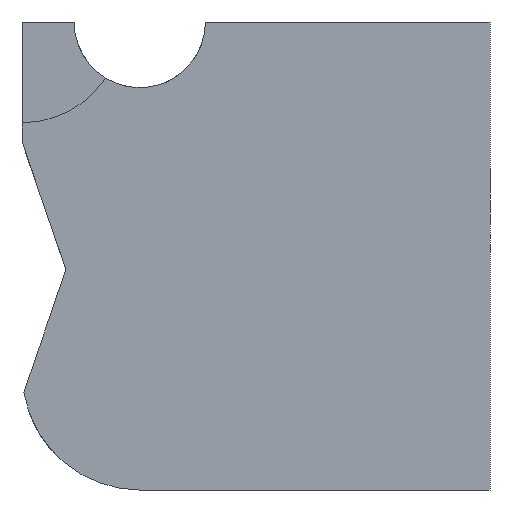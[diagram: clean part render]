
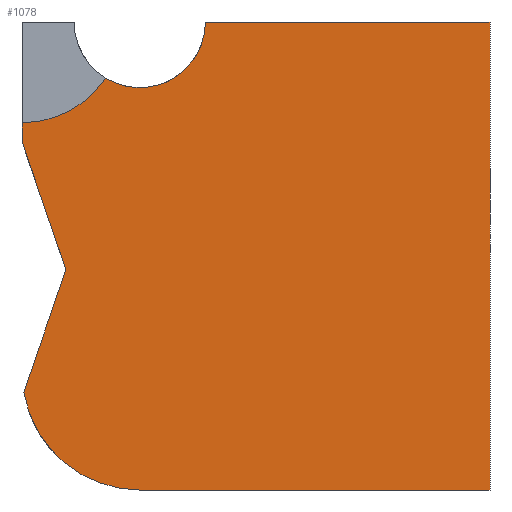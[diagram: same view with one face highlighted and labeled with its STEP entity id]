
A CAD part, front view. The second image highlights one B-rep face of the part: STEP entity #1078.
In plain terms, the highlighted planar face has unit normal (0, -1, 0).
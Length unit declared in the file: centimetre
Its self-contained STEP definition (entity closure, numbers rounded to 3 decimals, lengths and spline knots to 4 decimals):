
#19 = VECTOR ( 'NONE', #1021, 100. ) ;
#25 = LINE ( 'NONE', #358, #19 ) ;
#41 = ORIENTED_EDGE ( 'NONE', *, *, #123, .T. ) ;
#48 = DIRECTION ( 'NONE',  ( 0., -1., 0. ) ) ;
#76 = DIRECTION ( 'NONE',  ( 1., 0., 0. ) ) ;
#79 = EDGE_CURVE ( 'NONE', #438, #530, #575, .T. ) ;
#86 = EDGE_CURVE ( 'NONE', #248, #256, #756, .T. ) ;
#98 = CARTESIAN_POINT ( 'NONE',  ( 1000., 0., 0. ) ) ;
#111 = DIRECTION ( 'NONE',  ( -0.325, 0., 0.946 ) ) ;
#123 = EDGE_CURVE ( 'NONE', #401, #344, #672, .T. ) ;
#143 = ORIENTED_EDGE ( 'NONE', *, *, #86, .F. ) ;
#167 = DIRECTION ( 'NONE',  ( 0., 0., -1. ) ) ;
#175 = VECTOR ( 'NONE', #111, 100. ) ;
#180 = DIRECTION ( 'NONE',  ( 0., 0., 1. ) ) ;
#200 = VERTEX_POINT ( 'NONE', #782 ) ;
#223 = EDGE_CURVE ( 'NONE', #401, #200, #25, .T. ) ;
#236 = VECTOR ( 'NONE', #167, 100. ) ;
#243 = LINE ( 'NONE', #916, #279 ) ;
#248 = VERTEX_POINT ( 'NONE', #596 ) ;
#256 = VERTEX_POINT ( 'NONE', #98 ) ;
#276 = CARTESIAN_POINT ( 'NONE',  ( 0., 0., 1000. ) ) ;
#279 = VECTOR ( 'NONE', #76, 100. ) ;
#292 = EDGE_CURVE ( 'NONE', #200, #513, #429, .T. ) ;
#301 = EDGE_CURVE ( 'NONE', #334, #530, #326, .T. ) ;
#309 = VECTOR ( 'NONE', #537, 100. ) ;
#326 = CIRCLE ( 'NONE', #588, 140.2951 ) ;
#333 = DIRECTION ( 'NONE',  ( 0., 0., 1. ) ) ;
#334 = VERTEX_POINT ( 'NONE', #923 ) ;
#341 = ORIENTED_EDGE ( 'NONE', *, *, #292, .F. ) ;
#342 = CARTESIAN_POINT ( 'NONE',  ( 0., 0., 1000. ) ) ;
#344 = VERTEX_POINT ( 'NONE', #694 ) ;
#358 = CARTESIAN_POINT ( 'NONE',  ( 0., 0., 197.5916 ) ) ;
#362 = ORIENTED_EDGE ( 'NONE', *, *, #301, .T. ) ;
#401 = VERTEX_POINT ( 'NONE', #472 ) ;
#405 = CARTESIAN_POINT ( 'NONE',  ( 0., 0., 1000. ) ) ;
#429 = LINE ( 'NONE', #1028, #175 ) ;
#438 = VERTEX_POINT ( 'NONE', #946 ) ;
#440 = ORIENTED_EDGE ( 'NONE', *, *, #1061, .T. ) ;
#444 = DIRECTION ( 'NONE',  ( 0., 1., 0. ) ) ;
#472 = CARTESIAN_POINT ( 'NONE',  ( 3.783, 0., 208.6036 ) ) ;
#512 = DIRECTION ( 'NONE',  ( 0., 0., -1. ) ) ;
#513 = VERTEX_POINT ( 'NONE', #742 ) ;
#530 = VERTEX_POINT ( 'NONE', #889 ) ;
#537 = DIRECTION ( 'NONE',  ( 1., 0., 0. ) ) ;
#575 = CIRCLE ( 'NONE', #897, 215.2408 ) ;
#586 = DIRECTION ( 'NONE',  ( 0., -1., 0. ) ) ;
#588 = AXIS2_PLACEMENT_3D ( 'NONE', #590, #444, #180 ) ;
#590 = CARTESIAN_POINT ( 'NONE',  ( 251.5987, 0., 1000. ) ) ;
#596 = CARTESIAN_POINT ( 'NONE',  ( 1000., 0., 1000. ) ) ;
#629 = ORIENTED_EDGE ( 'NONE', *, *, #223, .F. ) ;
#639 = EDGE_CURVE ( 'NONE', #438, #513, #727, .T. ) ;
#660 = FACE_OUTER_BOUND ( 'NONE', #902, .T. ) ;
#672 = CIRCLE ( 'NONE', #834, 252.1141 ) ;
#677 = ORIENTED_EDGE ( 'NONE', *, *, #745, .F. ) ;
#682 = ORIENTED_EDGE ( 'NONE', *, *, #639, .T. ) ;
#683 = LINE ( 'NONE', #276, #309 ) ;
#694 = CARTESIAN_POINT ( 'NONE',  ( 252.1141, 0., 0. ) ) ;
#727 = LINE ( 'NONE', #405, #908 ) ;
#742 = CARTESIAN_POINT ( 'NONE',  ( 0., 0., 744.1861 ) ) ;
#745 = EDGE_CURVE ( 'NONE', #334, #248, #683, .T. ) ;
#756 = LINE ( 'NONE', #930, #236 ) ;
#775 = CARTESIAN_POINT ( 'NONE',  ( 252.1141, 0., 252.1141 ) ) ;
#782 = CARTESIAN_POINT ( 'NONE',  ( 93.8858, 0., 470.8888 ) ) ;
#834 = AXIS2_PLACEMENT_3D ( 'NONE', #775, #48, #881 ) ;
#881 = DIRECTION ( 'NONE',  ( 0., 0., 1. ) ) ;
#889 = CARTESIAN_POINT ( 'NONE',  ( 178.7525, 0., 880.0995 ) ) ;
#897 = AXIS2_PLACEMENT_3D ( 'NONE', #1031, #586, #512 ) ;
#902 = EDGE_LOOP ( 'NONE', ( #682, #341, #629, #41, #440, #143, #677, #362, #958 ) ) ;
#906 = DIRECTION ( 'NONE',  ( 0., 1., 0. ) ) ;
#908 = VECTOR ( 'NONE', #1068, 100. ) ;
#916 = CARTESIAN_POINT ( 'NONE',  ( 0., 0., 0. ) ) ;
#923 = CARTESIAN_POINT ( 'NONE',  ( 391.8937, 0., 1000. ) ) ;
#930 = CARTESIAN_POINT ( 'NONE',  ( 1000., 0., 1000. ) ) ;
#946 = CARTESIAN_POINT ( 'NONE',  ( 0., 0., 784.7592 ) ) ;
#958 = ORIENTED_EDGE ( 'NONE', *, *, #79, .F. ) ;
#988 = AXIS2_PLACEMENT_3D ( 'NONE', #342, #906, #333 ) ;
#1021 = DIRECTION ( 'NONE',  ( 0.325, 0., 0.946 ) ) ;
#1028 = CARTESIAN_POINT ( 'NONE',  ( 93.8858, 0., 470.8888 ) ) ;
#1031 = CARTESIAN_POINT ( 'NONE',  ( 0., 0., 1000. ) ) ;
#1061 = EDGE_CURVE ( 'NONE', #344, #256, #243, .T. ) ;
#1068 = DIRECTION ( 'NONE',  ( 0., 0., -1. ) ) ;
#1078 = ADVANCED_FACE ( 'NONE', ( #660 ), #1084, .F. ) ;
#1084 = PLANE ( 'NONE',  #988 ) ;
